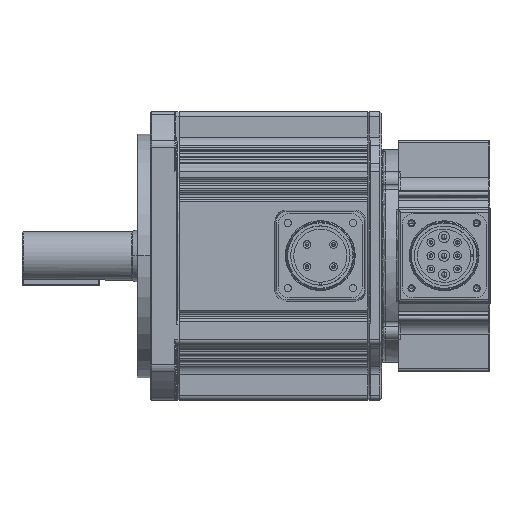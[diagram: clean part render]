
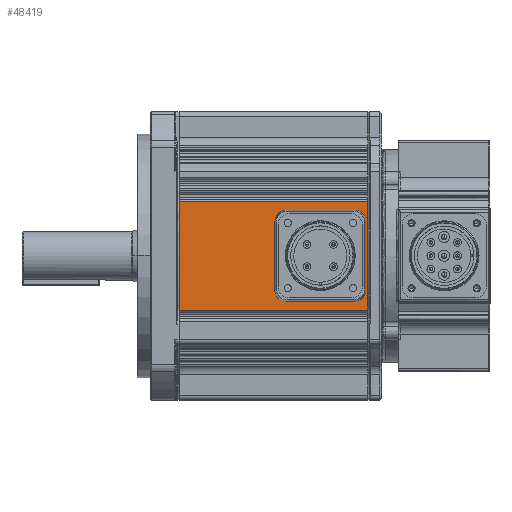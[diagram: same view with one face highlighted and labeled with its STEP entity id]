
A CAD part, top view. The second image highlights one B-rep face of the part: STEP entity #48419.
In plain terms, the highlighted planar face has unit normal (0, 0, 1) as drawn and (0, 1, 0) by its records, which use the part's own axes.
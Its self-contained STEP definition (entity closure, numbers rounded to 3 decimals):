
#190 = ORIENTED_EDGE ( 'NONE', *, *, #61258, .F. ) ;
#253 = ORIENTED_EDGE ( 'NONE', *, *, #61801, .F. ) ;
#280 = ORIENTED_EDGE ( 'NONE', *, *, #61224, .F. ) ;
#283 = ORIENTED_EDGE ( 'NONE', *, *, #61771, .T. ) ;
#4826 = AXIS2_PLACEMENT_3D ( 'NONE', #13169, #13176, #13177 ) ;
#13165 = FACE_OUTER_BOUND ( 'NONE', #66160, .T. ) ;
#13168 = PLANE ( 'NONE',  #4826 ) ;
#13169 = CARTESIAN_POINT ( 'NONE',  ( 65., 65., 133. ) ) ;
#13176 = DIRECTION ( 'NONE',  ( 0., -1., 0. ) ) ;
#13177 = DIRECTION ( 'NONE',  ( 0., 0., -1. ) ) ;
#16412 = CARTESIAN_POINT ( 'NONE',  ( -24.5, 65., 133. ) ) ;
#16420 = LINE ( 'NONE', #16412, #17338 ) ;
#16441 = DIRECTION ( 'NONE',  ( 0., 0., -1. ) ) ;
#16506 = LINE ( 'NONE', #16550, #17421 ) ;
#16550 = CARTESIAN_POINT ( 'NONE',  ( 24.5, 65., 133. ) ) ;
#16587 = DIRECTION ( 'NONE',  ( 0., 0., 1. ) ) ;
#17338 = VECTOR ( 'NONE', #16441, 1000. ) ;
#17421 = VECTOR ( 'NONE', #16587, 1000. ) ;
#17698 = VECTOR ( 'NONE', #25516, 1000. ) ;
#17850 = VECTOR ( 'NONE', #25538, 1000. ) ;
#25374 = LINE ( 'NONE', #25406, #17698 ) ;
#25406 = CARTESIAN_POINT ( 'NONE',  ( 65., 65., 47.5 ) ) ;
#25507 = LINE ( 'NONE', #25513, #17850 ) ;
#25513 = CARTESIAN_POINT ( 'NONE',  ( 0., 65., 132.5 ) ) ;
#25516 = DIRECTION ( 'NONE',  ( -1., 0., 0. ) ) ;
#25538 = DIRECTION ( 'NONE',  ( -1., 0., 0. ) ) ;
#46492 = VERTEX_POINT ( 'NONE', #56946 ) ;
#46498 = VERTEX_POINT ( 'NONE', #56893 ) ;
#46499 = VERTEX_POINT ( 'NONE', #56911 ) ;
#46531 = VERTEX_POINT ( 'NONE', #56954 ) ;
#48419 = ADVANCED_FACE ( 'NONE', ( #13165 ), #13168, .F. ) ;
#56893 = CARTESIAN_POINT ( 'NONE',  ( 24.5, 65., 132.5 ) ) ;
#56911 = CARTESIAN_POINT ( 'NONE',  ( -24.5, 65., 47.5 ) ) ;
#56946 = CARTESIAN_POINT ( 'NONE',  ( 24.5, 65., 47.5 ) ) ;
#56954 = CARTESIAN_POINT ( 'NONE',  ( -24.5, 65., 132.5 ) ) ;
#61224 = EDGE_CURVE ( 'NONE', #46531, #46499, #16420, .T. ) ;
#61258 = EDGE_CURVE ( 'NONE', #46492, #46498, #16506, .T. ) ;
#61771 = EDGE_CURVE ( 'NONE', #46492, #46499, #25374, .T. ) ;
#61801 = EDGE_CURVE ( 'NONE', #46498, #46531, #25507, .T. ) ;
#66160 = EDGE_LOOP ( 'NONE', ( #280, #253, #190, #283 ) ) ;
